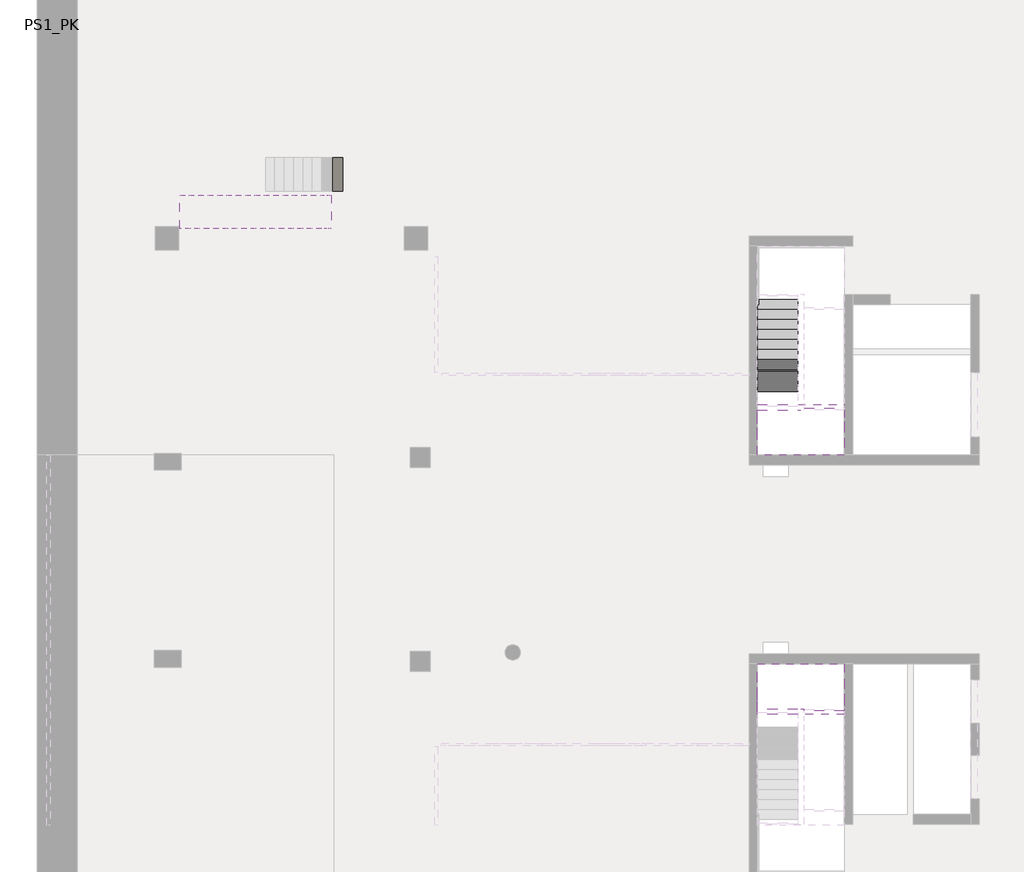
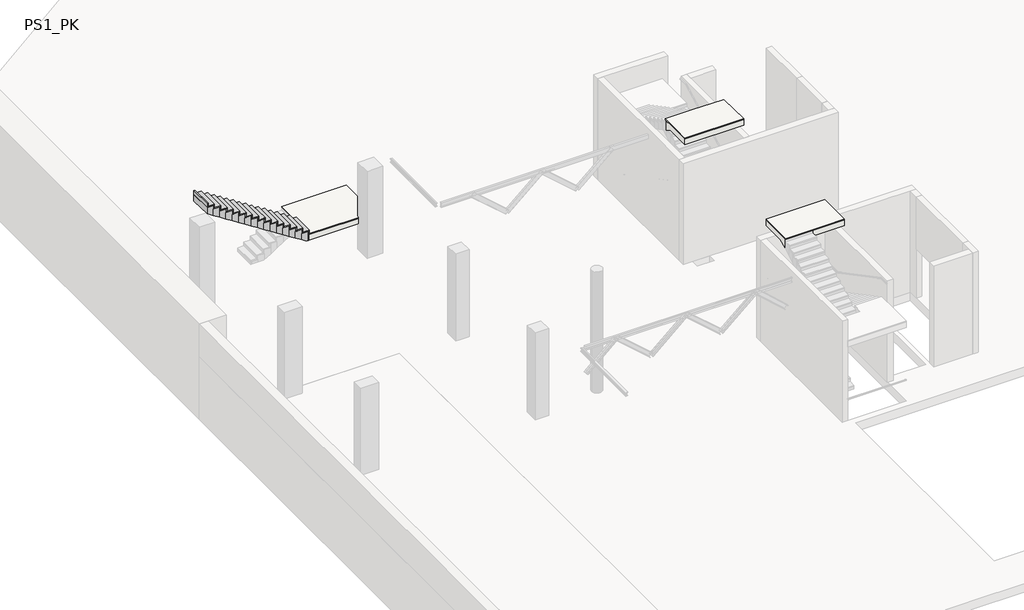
# One storey, part 4 of 5: 5 slabs, 2 stair flights.
"""IFC4 building model written with IfcOpenShell, lengths in millimetres."""

from ifc_helpers import new_model, si_unit, frame, origin, place, context, project, spatial, polyline, outline, extrude, faceted_brep, element, save

model = new_model("IFC4")

# Units and contexts
model_context = context("Model", 3, world=origin())
ifc_project = project(units=[si_unit("LENGTHUNIT", "METRE", prefix="MILLI")], contexts=[model_context])

# Site, building, storey
site = spatial("IfcSite", under=ifc_project)
building = spatial("IfcBuilding", under=site)
storey = spatial("IfcBuildingStorey", under=building, Name="PS1_PK", Elevation=1850.0)

# Slabs
placement = place(None, origin())
element("IfcSlab", 1, ObjectType="250mm_Thickness", at=placement, inside=storey, context=model_context, shape_type="SolidModel", body=[
    faceted_brep([(-26131.0997857, 15389.412773, 3333.6), (-26181.0997857, 15389.412773, 3333.6), (-26181.0997857, 15337.8960619, 3333.6), (-26181.0997857, 14389.412773, 3333.6), (-26131.0997857, 14389.412773, 3333.6), (-23265.3158631, 14389.412773, 3333.6), (-23265.3158631, 16500.1538347, 3333.6), (-25727.9490957, 16500.1538347, 3333.6), (-26081.0997857, 16500.1538347, 3333.6), (-26081.0997857, 15500.1538347, 3333.6), (-26131.0997857, 15500.1538347, 3333.6), (-26081.0997857, 16500.1538347, 3154.4), (-26081.0997857, 16500.1538347, 2857.5835584), (-26081.0997857, 15500.1538347, 2857.5835584), (-26081.0997857, 15500.1538347, 3083.6), (-26081.0997857, 15500.1538347, 3154.4), (-26181.0997857, 15337.8960619, 3083.6), (-26181.0997857, 14389.412773, 3083.6), (-26131.0997857, 14389.412773, 3083.6), (-23265.3158631, 14389.412773, 3083.6), (-23265.3158631, 16500.1538347, 3083.6), (-25727.9490957, 16500.1538347, 3083.6), (-25727.9490957, 15500.1538347, 3083.6), (-26181.0997857, 15389.412773, 3083.6), (-26131.0997857, 15389.412773, 3083.6), (-26131.0997857, 15500.1538347, 3083.6)], [[[0, 1, 2, 3, 4, 5, 6, 7, 8, 9, 10]], [[9, 8, 11, 12, 13, 14, 15]], [[3, 2, 16, 17]], [[5, 4, 18, 19]], [[6, 5, 19, 20]], [[6, 20, 21, 12, 11, 8, 7]], [[22, 21, 20, 19, 18, 17, 16, 23, 24, 25, 14]], [[21, 22, 13, 12]], [[22, 14, 13]], [[2, 1, 23, 16]], [[0, 10, 25, 24]], [[1, 0, 24, 23]], [[4, 3, 17, 18]], [[10, 9, 15, 14, 25]]]),
    extrude(outline(polyline([(-26131.0997857, 15389.412773), (-26131.0997857, 15500.1538347), (-26131.0997857, 16500.1538347), (-23265.3158631, 16500.1538347), (-23265.3158631, 14389.412773), (-26131.0997857, 14389.412773), (-26131.0997857, 15337.8960619), (-26131.0997857, 15389.412773)])), frame((0.0, 0.0, 3333.6), z_axis=(0.0, 0.0, 1.0), x_axis=(1.0, 0.0, 0.0)), (0.0, 0.0, 1.0), 50.0),
])
element("IfcSlab", 2, ObjectType="250mm_Thickness", at=placement, inside=storey, context=model_context, shape_type="SolidModel", body=[
    faceted_brep([(-12190.3216429, 8964.8960687, 3806.2857143), (-12190.3216429, 8914.8960687, 3806.2857143), (-13390.3216429, 8914.8960687, 3806.2857143), (-13390.3216429, 8552.7904531, 3806.2857143), (-13390.3216429, 7614.8960687, 3806.2857143), (-10790.2146087, 7614.8960687, 3806.2857143), (-10790.2146087, 8964.8960687, 3806.2857143), (-10790.2146087, 9014.8960687, 3806.2857143), (-11990.2146087, 9014.8960687, 3806.2857143), (-11990.2146087, 8964.8960687, 3806.2857143), (-12190.3216429, 8964.8960687, 3556.2857143), (-12190.3216429, 8914.8960687, 3556.2857143), (-12190.3216429, 8914.8960687, 3647.4285714), (-12190.3216429, 8914.8960687, 3364.5421692), (-13390.3216429, 8914.8960687, 3364.5421692), (-13390.3216429, 8914.8960687, 3647.4285714), (-13390.3216429, 8552.7904531, 3556.2857143), (-13390.3216429, 7614.8960687, 3556.2857143), (-10790.2146087, 7614.8960687, 3556.2857143), (-10790.2146087, 8964.8960687, 3556.2857143), (-10790.2146087, 9014.8960687, 3556.2857143), (-11990.2146087, 9014.8960687, 3556.2857143), (-11990.2146087, 8964.8960687, 3556.2857143), (-12190.3216429, 8552.7904531, 3556.2857143)], [[[0, 1, 2, 3, 4, 5, 6, 7, 8, 9]], [[1, 0, 10, 11, 12]], [[2, 1, 12, 11, 13, 14, 15]], [[2, 15, 14, 16, 17, 4, 3]], [[5, 4, 17, 18]], [[6, 5, 18, 19]], [[7, 6, 19, 20]], [[8, 7, 20, 21]], [[9, 8, 21, 22]], [[0, 9, 22, 10]], [[16, 23, 11, 10, 22, 21, 20, 19, 18, 17]], [[23, 16, 14, 13]], [[11, 23, 13]]]),
    extrude(outline(polyline([(-12190.3216429, 8964.8960687), (-11990.2146087, 8964.8960687), (-10790.2146087, 8964.8960687), (-10790.2146087, 7614.8960687), (-13390.3216429, 7614.8960687), (-13390.3216429, 8964.8960687), (-12190.3216429, 8964.8960687)])), frame((0.0, 0.0, 3806.2857143), z_axis=(0.0, 0.0, 1.0), x_axis=(1.0, 0.0, 0.0)), (0.0, 0.0, 1.0), 50.0),
])
element("IfcSlab", 3, ObjectType="250mm_Thickness", at=placement, inside=storey, context=model_context, shape_type="SolidModel", body=[
    faceted_brep([(-12190.3216429, 9114.8960687, 7460.0), (-12190.3216429, 9064.8960687, 7460.0), (-13390.3216429, 9064.8960687, 7460.0), (-13390.3216429, 8702.7904531, 7460.0), (-13390.3216429, 7614.8960687, 7460.0), (-10790.2146087, 7614.8960687, 7460.0), (-10790.2146087, 9114.8960687, 7460.0), (-10790.2146087, 7614.8960687, 7210.0), (-10790.2146087, 9114.8960687, 7210.0), (-13390.3216429, 9064.8960687, 7301.1428571), (-13390.3216429, 9064.8960687, 7018.2564549), (-13390.3216429, 8702.7904531, 7210.0), (-13390.3216429, 7614.8960687, 7210.0), (-12190.3216429, 8702.7904531, 7210.0), (-12190.3216429, 9064.8960687, 7210.0), (-12190.3216429, 9114.8960687, 7210.0), (-12190.3216429, 9064.8960687, 7301.1428571), (-12190.3216429, 9064.8960687, 7018.2564549)], [[[0, 1, 2, 3, 4, 5, 6]], [[6, 5, 7, 8]], [[2, 9, 10, 11, 12, 4, 3]], [[5, 4, 12, 7]], [[11, 13, 14, 15, 8, 7, 12]], [[1, 0, 15, 14, 16]], [[2, 1, 16, 14, 17, 10, 9]], [[0, 6, 8, 15]], [[13, 11, 10, 17]], [[14, 13, 17]]]),
    extrude(outline(polyline([(-12190.3216429, 9114.8960687), (-10790.2146087, 9114.8960687), (-10790.2146087, 7614.8960687), (-13390.3216429, 7614.8960687), (-13390.3216429, 9114.8960687), (-12190.3216429, 9114.8960687)])), frame((0.0, 0.0, 7460.0), z_axis=(0.0, 0.0, 1.0), x_axis=(1.0, 0.0, 0.0)), (0.0, 0.0, 1.0), 50.0),
])
element("IfcSlab", 4, ObjectType="250mm_Thickness", at=placement, inside=storey, context=model_context, shape_type="SolidModel", body=[
    faceted_brep([(-13390.3216429, 64.8960677, 3806.2857143), (-12190.3216429, 64.8960677, 3806.2857143), (-12190.3216429, 14.8960677, 3806.2857143), (-11990.2146087, 14.8960677, 3806.2857143), (-11990.2146087, -35.1039323, 3806.2857143), (-10790.2146087, -35.1039323, 3806.2857143), (-10790.2146087, 14.8960677, 3806.2857143), (-10790.2146087, 1364.8960678, 3806.2857143), (-13390.3216429, 1364.8960678, 3806.2857143), (-13390.3216429, 427.0016834, 3806.2857143), (-13390.3216429, 64.8960677, 3647.4285714), (-13390.3216429, 64.8960677, 3364.5421692), (-12190.3216429, 64.8960677, 3364.5421692), (-12190.3216429, 64.8960677, 3556.2857143), (-12190.3216429, 64.8960677, 3647.4285714), (-13390.3216429, 1364.8960678, 3556.2857143), (-13390.3216429, 427.0016834, 3556.2857143), (-10790.2146087, 1364.8960678, 3556.2857143), (-10790.2146087, 14.8960677, 3556.2857143), (-10790.2146087, -35.1039323, 3556.2857143), (-11990.2146087, -35.1039323, 3556.2857143), (-12190.3216429, 14.8960677, 3556.2857143), (-11990.2146087, 14.8960677, 3556.2857143), (-12190.3216429, 427.0016834, 3556.2857143)], [[[0, 1, 2, 3, 4, 5, 6, 7, 8, 9]], [[1, 0, 10, 11, 12, 13, 14]], [[11, 10, 0, 9, 8, 15, 16]], [[8, 7, 17, 15]], [[7, 6, 18, 17]], [[6, 5, 19, 18]], [[5, 4, 20, 19]], [[3, 2, 21, 22]], [[23, 16, 15, 17, 18, 19, 20, 22, 21, 13]], [[16, 23, 12, 11]], [[23, 13, 12]], [[2, 1, 14, 13, 21]], [[4, 3, 22, 20]]]),
    extrude(outline(polyline([(-13390.3216429, 14.8960677), (-13390.3216429, 1364.8960678), (-10790.2146087, 1364.8960678), (-10790.2146087, 14.8960677), (-11990.2146087, 14.8960677), (-12190.3216429, 14.8960677), (-13390.3216429, 14.8960677)])), frame((0.0, 0.0, 3806.2857143), z_axis=(0.0, 0.0, 1.0), x_axis=(1.0, 0.0, 0.0)), (0.0, 0.0, 1.0), 50.0),
])
element("IfcSlab", 5, ObjectType="250mm_Thickness", at=placement, inside=storey, context=model_context, shape_type="SolidModel", body=[
    faceted_brep([(-13390.3216429, -85.1039323, 7460.0), (-12190.3216429, -85.1039323, 7460.0), (-12190.3216429, -135.1039323, 7460.0), (-10790.2146087, -135.1039323, 7460.0), (-10790.2146087, 1364.8960678, 7460.0), (-13390.3216429, 1364.8960678, 7460.0), (-13390.3216429, 277.0016834, 7460.0), (-10790.2146087, -135.1039323, 7210.0), (-10790.2146087, 1364.8960678, 7210.0), (-13390.3216429, -85.1039323, 7018.2564549), (-13390.3216429, -85.1039323, 7301.1428571), (-13390.3216429, 1364.8960678, 7210.0), (-13390.3216429, 277.0016834, 7210.0), (-12190.3216429, 277.0016834, 7210.0), (-12190.3216429, -135.1039323, 7210.0), (-12190.3216429, -85.1039323, 7210.0), (-12190.3216429, -85.1039323, 7018.2564549), (-12190.3216429, -85.1039323, 7301.1428571)], [[[0, 1, 2, 3, 4, 5, 6]], [[4, 3, 7, 8]], [[9, 10, 0, 6, 5, 11, 12]], [[5, 4, 8, 11]], [[13, 12, 11, 8, 7, 14, 15]], [[1, 0, 10, 9, 16, 15, 17]], [[3, 2, 14, 7]], [[12, 13, 16, 9]], [[13, 15, 16]], [[2, 1, 17, 15, 14]]]),
    extrude(outline(polyline([(-13390.3216429, -135.1039323), (-13390.3216429, 1364.8960678), (-10790.2146087, 1364.8960678), (-10790.2146087, -135.1039323), (-12190.3216429, -135.1039323), (-13390.3216429, -135.1039323)])), frame((0.0, 0.0, 7460.0), z_axis=(0.0, 0.0, 1.0), x_axis=(1.0, 0.0, 0.0)), (0.0, 0.0, 1.0), 50.0),
])

# Stair flights
element("IfcStairFlight", 6, ObjectType="250mm Depth", at=placement, inside=storey, context=model_context, shape_type="SolidModel", body=[
    faceted_brep([(-26181.0997857, 14389.412773, 3512.8), (-26181.0997857, 15389.412773, 3512.8), (-26254.2504757, 15389.412773, 3512.8), (-26461.0997857, 15389.412773, 3512.8), (-26461.0997857, 14389.412773, 3512.8), (-26254.2504757, 14389.412773, 3512.8), (-26461.0997857, 14389.412773, 3215.9835584), (-26254.2504757, 14389.412773, 3083.6), (-26181.0997857, 14389.412773, 3083.6), (-26181.0997857, 14389.412773, 3333.6), (-26181.0997857, 15389.412773, 3083.6), (-26181.0997857, 15389.412773, 3333.6), (-26254.2504757, 15389.412773, 3083.6), (-26461.0997857, 15389.412773, 3215.9835584), (-26741.0997857, 14389.412773, 3692.0), (-26461.0997857, 14389.412773, 3692.0), (-26461.0997857, 15389.412773, 3692.0), (-26741.0997857, 15389.412773, 3692.0), (-26741.0997857, 14389.412773, 3395.1835584), (-26741.0997857, 15389.412773, 3395.1835584), (-27021.0997857, 14389.412773, 3871.2), (-26741.0997857, 14389.412773, 3871.2), (-26741.0997857, 15389.412773, 3871.2), (-27021.0997857, 15389.412773, 3871.2), (-27021.0997857, 14389.412773, 3574.3835584), (-27021.0997857, 15389.412773, 3574.3835584), (-27301.0997857, 14389.412773, 4050.4), (-27021.0997857, 14389.412773, 4050.4), (-27021.0997857, 15389.412773, 4050.4), (-27301.0997857, 15389.412773, 4050.4), (-27301.0997857, 14389.412773, 3753.5835584), (-27301.0997857, 15389.412773, 3753.5835584), (-27581.0997857, 14389.412773, 4229.6), (-27301.0997857, 14389.412773, 4229.6), (-27301.0997857, 15389.412773, 4229.6), (-27581.0997857, 15389.412773, 4229.6), (-27581.0997857, 14389.412773, 3932.7835584), (-27581.0997857, 15389.412773, 3932.7835584), (-27861.0997857, 14389.412773, 4408.8), (-27581.0997857, 14389.412773, 4408.8), (-27581.0997857, 15389.412773, 4408.8), (-27861.0997857, 15389.412773, 4408.8), (-27861.0997857, 14389.412773, 4111.9835584), (-27861.0997857, 15389.412773, 4111.9835584), (-28141.0997857, 14389.412773, 4588.0), (-27861.0997857, 14389.412773, 4588.0), (-27861.0997857, 15389.412773, 4588.0), (-28141.0997857, 15389.412773, 4588.0), (-28141.0997857, 14389.412773, 4291.1835584), (-28141.0997857, 15389.412773, 4291.1835584), (-28421.0997857, 14389.412773, 4767.2), (-28141.0997857, 14389.412773, 4767.2), (-28141.0997857, 15389.412773, 4767.2), (-28421.0997857, 15389.412773, 4767.2), (-28421.0997857, 14389.412773, 4470.3835584), (-28421.0997857, 15389.412773, 4470.3835584), (-28701.0997857, 14389.412773, 4946.4), (-28421.0997857, 14389.412773, 4946.4), (-28421.0997857, 15389.412773, 4946.4), (-28701.0997857, 15389.412773, 4946.4), (-28701.0997857, 14389.412773, 4649.5835584), (-28701.0997857, 15389.412773, 4649.5835584), (-28981.0997857, 14389.412773, 5125.6), (-28701.0997857, 14389.412773, 5125.6), (-28701.0997857, 15389.412773, 5125.6), (-28981.0997857, 15389.412773, 5125.6), (-28981.0997857, 14389.412773, 4828.7835584), (-28981.0997857, 15389.412773, 4828.7835584), (-29261.0997857, 14389.412773, 5304.8), (-28981.0997857, 14389.412773, 5304.8), (-28981.0997857, 15389.412773, 5304.8), (-29261.0997857, 15389.412773, 5304.8), (-29261.0997857, 14389.412773, 5007.9835584), (-29261.0997857, 15389.412773, 5007.9835584), (-29541.0997857, 14389.412773, 5484.0), (-29261.0997857, 14389.412773, 5484.0), (-29261.0997857, 15389.412773, 5484.0), (-29541.0997857, 15389.412773, 5484.0), (-29541.0997857, 14389.412773, 5187.1835584), (-29541.0997857, 15389.412773, 5187.1835584), (-29821.0997857, 14389.412773, 5663.2), (-29541.0997857, 14389.412773, 5663.2), (-29541.0997857, 15389.412773, 5663.2), (-29821.0997857, 15389.412773, 5663.2), (-29821.0997857, 14389.412773, 5366.3835584), (-29821.0997857, 15389.412773, 5366.3835584), (-30101.0997857, 14389.412773, 5842.4), (-29821.0997857, 14389.412773, 5842.4), (-29821.0997857, 15389.412773, 5842.4), (-30101.0997857, 15389.412773, 5842.4), (-30101.0997857, 14389.412773, 5545.5835584), (-30101.0997857, 15389.412773, 5545.5835584), (-30381.0997857, 14389.412773, 6021.6), (-30101.0997857, 14389.412773, 6021.6), (-30101.0997857, 15389.412773, 6021.6), (-30381.0997857, 15389.412773, 6021.6), (-30381.0997857, 14389.412773, 5724.7835584), (-30381.0997857, 15389.412773, 5724.7835584), (-30661.0997857, 14389.412773, 6200.8), (-30381.0997857, 14389.412773, 6200.8), (-30381.0997857, 15389.412773, 6200.8), (-30661.0997857, 15389.412773, 6200.8), (-30661.0997857, 14389.412773, 5903.9835584), (-30661.0997857, 15389.412773, 5903.9835584), (-26254.2504757, 15337.8960619, 3083.6)], [[[0, 1, 2, 3, 4, 5]], [[4, 6, 7, 8, 9, 0, 5]], [[1, 0, 9, 8, 10, 11]], [[1, 11, 10, 12, 13, 3, 2]], [[14, 15, 16, 17]], [[15, 14, 18, 6, 4]], [[16, 15, 4, 3]], [[17, 16, 3, 13, 19]], [[20, 21, 22, 23]], [[21, 20, 24, 18, 14]], [[22, 21, 14, 17]], [[23, 22, 17, 19, 25]], [[26, 27, 28, 29]], [[27, 26, 30, 24, 20]], [[28, 27, 20, 23]], [[29, 28, 23, 25, 31]], [[32, 33, 34, 35]], [[33, 32, 36, 30, 26]], [[34, 33, 26, 29]], [[35, 34, 29, 31, 37]], [[38, 39, 40, 41]], [[39, 38, 42, 36, 32]], [[40, 39, 32, 35]], [[41, 40, 35, 37, 43]], [[44, 45, 46, 47]], [[45, 44, 48, 42, 38]], [[46, 45, 38, 41]], [[47, 46, 41, 43, 49]], [[50, 51, 52, 53]], [[51, 50, 54, 48, 44]], [[52, 51, 44, 47]], [[53, 52, 47, 49, 55]], [[56, 57, 58, 59]], [[57, 56, 60, 54, 50]], [[58, 57, 50, 53]], [[59, 58, 53, 55, 61]], [[62, 63, 64, 65]], [[63, 62, 66, 60, 56]], [[64, 63, 56, 59]], [[65, 64, 59, 61, 67]], [[68, 69, 70, 71]], [[69, 68, 72, 66, 62]], [[70, 69, 62, 65]], [[71, 70, 65, 67, 73]], [[74, 75, 76, 77]], [[75, 74, 78, 72, 68]], [[76, 75, 68, 71]], [[77, 76, 71, 73, 79]], [[80, 81, 82, 83]], [[81, 80, 84, 78, 74]], [[82, 81, 74, 77]], [[83, 82, 77, 79, 85]], [[86, 87, 88, 89]], [[87, 86, 90, 84, 80]], [[88, 87, 80, 83]], [[89, 88, 83, 85, 91]], [[92, 93, 94, 95]], [[93, 92, 96, 90, 86]], [[94, 93, 86, 89]], [[95, 94, 89, 91, 97]], [[98, 99, 100, 101]], [[99, 98, 102, 96, 92]], [[100, 99, 92, 95]], [[101, 100, 95, 97, 103]], [[98, 101, 103, 102]], [[12, 104, 7, 6, 18, 24, 30, 36, 42, 48, 54, 60, 66, 72, 78, 84, 90, 96, 102, 103, 97, 91, 85, 79, 73, 67, 61, 55, 49, 43, 37, 31, 25, 19, 13]], [[104, 12, 10, 8, 7]]]),
    extrude(outline(polyline([(-26181.0997857, 15389.412773), (-26131.0997857, 15389.412773), (-26131.0997857, 14389.412773), (-26181.0997857, 14389.412773), (-26181.0997857, 15389.412773)])), frame((0.0, 0.0, 3333.6), z_axis=(0.0, 0.0, 1.0), x_axis=(1.0, 0.0, 0.0)), (0.0, 0.0, 1.0), 179.2),
    extrude(outline(polyline([(-26411.0997857, 14389.412773), (-26411.0997857, 15389.412773), (-26131.0997857, 15389.412773), (-26131.0997857, 14389.412773), (-26411.0997857, 14389.412773)])), frame((0.0, 0.0, 3512.8), z_axis=(0.0, 0.0, 1.0), x_axis=(1.0, 0.0, 0.0)), (0.0, 0.0, 1.0), 50.0),
    extrude(outline(polyline([(-26461.0997857, 15389.412773), (-26411.0997857, 15389.412773), (-26411.0997857, 14389.412773), (-26461.0997857, 14389.412773), (-26461.0997857, 15389.412773)])), frame((0.0, 0.0, 3512.8), z_axis=(0.0, 0.0, 1.0), x_axis=(1.0, 0.0, 0.0)), (0.0, 0.0, 1.0), 179.2),
    extrude(outline(polyline([(-26691.0997857, 14389.412773), (-26691.0997857, 15389.412773), (-26411.0997857, 15389.412773), (-26411.0997857, 14389.412773), (-26691.0997857, 14389.412773)])), frame((0.0, 0.0, 3692.0), z_axis=(0.0, 0.0, 1.0), x_axis=(1.0, 0.0, 0.0)), (0.0, 0.0, 1.0), 50.0),
    extrude(outline(polyline([(-26741.0997857, 15389.412773), (-26691.0997857, 15389.412773), (-26691.0997857, 14389.412773), (-26741.0997857, 14389.412773), (-26741.0997857, 15389.412773)])), frame((0.0, 0.0, 3692.0), z_axis=(0.0, 0.0, 1.0), x_axis=(1.0, 0.0, 0.0)), (0.0, 0.0, 1.0), 179.2),
    extrude(outline(polyline([(-26971.0997857, 14389.412773), (-26971.0997857, 15389.412773), (-26691.0997857, 15389.412773), (-26691.0997857, 14389.412773), (-26971.0997857, 14389.412773)])), frame((0.0, 0.0, 3871.2), z_axis=(0.0, 0.0, 1.0), x_axis=(1.0, 0.0, 0.0)), (0.0, 0.0, 1.0), 50.0),
    extrude(outline(polyline([(-27021.0997857, 15389.412773), (-26971.0997857, 15389.412773), (-26971.0997857, 14389.412773), (-27021.0997857, 14389.412773), (-27021.0997857, 15389.412773)])), frame((0.0, 0.0, 3871.2), z_axis=(0.0, 0.0, 1.0), x_axis=(1.0, 0.0, 0.0)), (0.0, 0.0, 1.0), 179.2),
    extrude(outline(polyline([(-27251.0997857, 14389.412773), (-27251.0997857, 15389.412773), (-26971.0997857, 15389.412773), (-26971.0997857, 14389.412773), (-27251.0997857, 14389.412773)])), frame((0.0, 0.0, 4050.4), z_axis=(0.0, 0.0, 1.0), x_axis=(1.0, 0.0, 0.0)), (0.0, 0.0, 1.0), 50.0),
    extrude(outline(polyline([(-27301.0997857, 15389.412773), (-27251.0997857, 15389.412773), (-27251.0997857, 14389.412773), (-27301.0997857, 14389.412773), (-27301.0997857, 15389.412773)])), frame((0.0, 0.0, 4050.4), z_axis=(0.0, 0.0, 1.0), x_axis=(1.0, 0.0, 0.0)), (0.0, 0.0, 1.0), 179.2),
    extrude(outline(polyline([(-27531.0997857, 14389.412773), (-27531.0997857, 15389.412773), (-27251.0997857, 15389.412773), (-27251.0997857, 14389.412773), (-27531.0997857, 14389.412773)])), frame((0.0, 0.0, 4229.6), z_axis=(0.0, 0.0, 1.0), x_axis=(1.0, 0.0, 0.0)), (0.0, 0.0, 1.0), 50.0),
    extrude(outline(polyline([(-27581.0997857, 15389.412773), (-27531.0997857, 15389.412773), (-27531.0997857, 14389.412773), (-27581.0997857, 14389.412773), (-27581.0997857, 15389.412773)])), frame((0.0, 0.0, 4229.6), z_axis=(0.0, 0.0, 1.0), x_axis=(1.0, 0.0, 0.0)), (0.0, 0.0, 1.0), 179.2),
    extrude(outline(polyline([(-27811.0997857, 14389.412773), (-27811.0997857, 15389.412773), (-27531.0997857, 15389.412773), (-27531.0997857, 14389.412773), (-27811.0997857, 14389.412773)])), frame((0.0, 0.0, 4408.8), z_axis=(0.0, 0.0, 1.0), x_axis=(1.0, 0.0, 0.0)), (0.0, 0.0, 1.0), 50.0),
    extrude(outline(polyline([(-27861.0997857, 15389.412773), (-27811.0997857, 15389.412773), (-27811.0997857, 14389.412773), (-27861.0997857, 14389.412773), (-27861.0997857, 15389.412773)])), frame((0.0, 0.0, 4408.8), z_axis=(0.0, 0.0, 1.0), x_axis=(1.0, 0.0, 0.0)), (0.0, 0.0, 1.0), 179.2),
    extrude(outline(polyline([(-28091.0997857, 14389.412773), (-28091.0997857, 15389.412773), (-27811.0997857, 15389.412773), (-27811.0997857, 14389.412773), (-28091.0997857, 14389.412773)])), frame((0.0, 0.0, 4588.0), z_axis=(0.0, 0.0, 1.0), x_axis=(1.0, 0.0, 0.0)), (0.0, 0.0, 1.0), 50.0),
    extrude(outline(polyline([(-28141.0997857, 15389.412773), (-28091.0997857, 15389.412773), (-28091.0997857, 14389.412773), (-28141.0997857, 14389.412773), (-28141.0997857, 15389.412773)])), frame((0.0, 0.0, 4588.0), z_axis=(0.0, 0.0, 1.0), x_axis=(1.0, 0.0, 0.0)), (0.0, 0.0, 1.0), 179.2),
    extrude(outline(polyline([(-28371.0997857, 14389.412773), (-28371.0997857, 15389.412773), (-28091.0997857, 15389.412773), (-28091.0997857, 14389.412773), (-28371.0997857, 14389.412773)])), frame((0.0, 0.0, 4767.2), z_axis=(0.0, 0.0, 1.0), x_axis=(1.0, 0.0, 0.0)), (0.0, 0.0, 1.0), 50.0),
    extrude(outline(polyline([(-28421.0997857, 15389.412773), (-28371.0997857, 15389.412773), (-28371.0997857, 14389.412773), (-28421.0997857, 14389.412773), (-28421.0997857, 15389.412773)])), frame((0.0, 0.0, 4767.2), z_axis=(0.0, 0.0, 1.0), x_axis=(1.0, 0.0, 0.0)), (0.0, 0.0, 1.0), 179.2),
    extrude(outline(polyline([(-28651.0997857, 14389.412773), (-28651.0997857, 15389.412773), (-28371.0997857, 15389.412773), (-28371.0997857, 14389.412773), (-28651.0997857, 14389.412773)])), frame((0.0, 0.0, 4946.4), z_axis=(0.0, 0.0, 1.0), x_axis=(1.0, 0.0, 0.0)), (0.0, 0.0, 1.0), 50.0),
    extrude(outline(polyline([(-28701.0997857, 15389.412773), (-28651.0997857, 15389.412773), (-28651.0997857, 14389.412773), (-28701.0997857, 14389.412773), (-28701.0997857, 15389.412773)])), frame((0.0, 0.0, 4946.4), z_axis=(0.0, 0.0, 1.0), x_axis=(1.0, 0.0, 0.0)), (0.0, 0.0, 1.0), 179.2),
    extrude(outline(polyline([(-28931.0997857, 14389.412773), (-28931.0997857, 15389.412773), (-28651.0997857, 15389.412773), (-28651.0997857, 14389.412773), (-28931.0997857, 14389.412773)])), frame((0.0, 0.0, 5125.6), z_axis=(0.0, 0.0, 1.0), x_axis=(1.0, 0.0, 0.0)), (0.0, 0.0, 1.0), 50.0),
    extrude(outline(polyline([(-28981.0997857, 15389.412773), (-28931.0997857, 15389.412773), (-28931.0997857, 14389.412773), (-28981.0997857, 14389.412773), (-28981.0997857, 15389.412773)])), frame((0.0, 0.0, 5125.6), z_axis=(0.0, 0.0, 1.0), x_axis=(1.0, 0.0, 0.0)), (0.0, 0.0, 1.0), 179.2),
    extrude(outline(polyline([(-29211.0997857, 14389.412773), (-29211.0997857, 15389.412773), (-28931.0997857, 15389.412773), (-28931.0997857, 14389.412773), (-29211.0997857, 14389.412773)])), frame((0.0, 0.0, 5304.8), z_axis=(0.0, 0.0, 1.0), x_axis=(1.0, 0.0, 0.0)), (0.0, 0.0, 1.0), 50.0),
    extrude(outline(polyline([(-29261.0997857, 15389.412773), (-29211.0997857, 15389.412773), (-29211.0997857, 14389.412773), (-29261.0997857, 14389.412773), (-29261.0997857, 15389.412773)])), frame((0.0, 0.0, 5304.8), z_axis=(0.0, 0.0, 1.0), x_axis=(1.0, 0.0, 0.0)), (0.0, 0.0, 1.0), 179.2),
    extrude(outline(polyline([(-29491.0997857, 14389.412773), (-29491.0997857, 15389.412773), (-29211.0997857, 15389.412773), (-29211.0997857, 14389.412773), (-29491.0997857, 14389.412773)])), frame((0.0, 0.0, 5484.0), z_axis=(0.0, 0.0, 1.0), x_axis=(1.0, 0.0, 0.0)), (0.0, 0.0, 1.0), 50.0),
    extrude(outline(polyline([(-29541.0997857, 15389.412773), (-29491.0997857, 15389.412773), (-29491.0997857, 14389.412773), (-29541.0997857, 14389.412773), (-29541.0997857, 15389.412773)])), frame((0.0, 0.0, 5484.0), z_axis=(0.0, 0.0, 1.0), x_axis=(1.0, 0.0, 0.0)), (0.0, 0.0, 1.0), 179.2),
    extrude(outline(polyline([(-29771.0997857, 14389.412773), (-29771.0997857, 15389.412773), (-29491.0997857, 15389.412773), (-29491.0997857, 14389.412773), (-29771.0997857, 14389.412773)])), frame((0.0, 0.0, 5663.2), z_axis=(0.0, 0.0, 1.0), x_axis=(1.0, 0.0, 0.0)), (0.0, 0.0, 1.0), 50.0),
    extrude(outline(polyline([(-29821.0997857, 15389.412773), (-29771.0997857, 15389.412773), (-29771.0997857, 14389.412773), (-29821.0997857, 14389.412773), (-29821.0997857, 15389.412773)])), frame((0.0, 0.0, 5663.2), z_axis=(0.0, 0.0, 1.0), x_axis=(1.0, 0.0, 0.0)), (0.0, 0.0, 1.0), 179.2),
    extrude(outline(polyline([(-30051.0997857, 14389.412773), (-30051.0997857, 15389.412773), (-29771.0997857, 15389.412773), (-29771.0997857, 14389.412773), (-30051.0997857, 14389.412773)])), frame((0.0, 0.0, 5842.4), z_axis=(0.0, 0.0, 1.0), x_axis=(1.0, 0.0, 0.0)), (0.0, 0.0, 1.0), 50.0),
    extrude(outline(polyline([(-30101.0997857, 15389.412773), (-30051.0997857, 15389.412773), (-30051.0997857, 14389.412773), (-30101.0997857, 14389.412773), (-30101.0997857, 15389.412773)])), frame((0.0, 0.0, 5842.4), z_axis=(0.0, 0.0, 1.0), x_axis=(1.0, 0.0, 0.0)), (0.0, 0.0, 1.0), 179.2),
    extrude(outline(polyline([(-30331.0997857, 14389.412773), (-30331.0997857, 15389.412773), (-30051.0997857, 15389.412773), (-30051.0997857, 14389.412773), (-30331.0997857, 14389.412773)])), frame((0.0, 0.0, 6021.6), z_axis=(0.0, 0.0, 1.0), x_axis=(1.0, 0.0, 0.0)), (0.0, 0.0, 1.0), 50.0),
    extrude(outline(polyline([(-30381.0997857, 15389.412773), (-30331.0997857, 15389.412773), (-30331.0997857, 14389.412773), (-30381.0997857, 14389.412773), (-30381.0997857, 15389.412773)])), frame((0.0, 0.0, 6021.6), z_axis=(0.0, 0.0, 1.0), x_axis=(1.0, 0.0, 0.0)), (0.0, 0.0, 1.0), 179.2),
    extrude(outline(polyline([(-30661.0997857, 15389.412773), (-30611.0997857, 15389.412773), (-30611.0997857, 14389.412773), (-30661.0997857, 14389.412773), (-30661.0997857, 15389.412773)])), frame((0.0, 0.0, 6200.8), z_axis=(0.0, 0.0, 1.0), x_axis=(1.0, 0.0, 0.0)), (0.0, 0.0, 1.0), 179.2),
    extrude(outline(polyline([(-30611.0997857, 14389.412773), (-30611.0997857, 15389.412773), (-30331.0997857, 15389.412773), (-30331.0997857, 14389.412773), (-30611.0997857, 14389.412773)])), frame((0.0, 0.0, 6200.8), z_axis=(0.0, 0.0, 1.0), x_axis=(1.0, 0.0, 0.0)), (0.0, 0.0, 1.0), 50.0),
])
element("IfcStairFlight", 7, ObjectType="250mm Depth", at=placement, inside=storey, context=model_context, shape_type="SolidModel", body=[
    faceted_brep([(-12190.3216429, 11914.8960687, 2058.8571429), (-12190.3216429, 12214.8960687, 2058.8571429), (-13390.3216429, 12214.8960687, 2058.8571429), (-13390.3216429, 11914.8960687, 2058.8571429), (-12190.3216429, 11914.8960687, 1950.0), (-12190.3216429, 12214.8960687, 1950.0), (-13390.3216429, 12214.8960687, 1950.0), (-13390.3216429, 11914.8960687, 1950.0), (-12190.3216429, 11614.8960687, 2217.7142857), (-12190.3216429, 11914.8960687, 2217.7142857), (-13390.3216429, 11914.8960687, 2217.7142857), (-13390.3216429, 11614.8960687, 2217.7142857), (-12190.3216429, 11614.8960687, 1950.0), (-13390.3216429, 11614.8960687, 1950.0), (-12190.3216429, 11314.8960687, 2376.5714286), (-12190.3216429, 11614.8960687, 2376.5714286), (-13390.3216429, 11614.8960687, 2376.5714286), (-13390.3216429, 11314.8960687, 2376.5714286), (-12190.3216429, 11314.8960687, 2093.6850264), (-12190.3216429, 11586.2436905, 1950.0), (-13390.3216429, 11586.2436905, 1950.0), (-13390.3216429, 11314.8960687, 2093.6850264), (-12190.3216429, 11014.8960687, 2535.4285714), (-12190.3216429, 11314.8960687, 2535.4285714), (-13390.3216429, 11314.8960687, 2535.4285714), (-13390.3216429, 11014.8960687, 2535.4285714), (-12190.3216429, 11014.8960687, 2252.5421692), (-13390.3216429, 11014.8960687, 2252.5421692), (-12190.3216429, 10714.8960687, 2694.2857143), (-12190.3216429, 11014.8960687, 2694.2857143), (-13390.3216429, 11014.8960687, 2694.2857143), (-13390.3216429, 10714.8960687, 2694.2857143), (-12190.3216429, 10714.8960687, 2411.3993121), (-13390.3216429, 10714.8960687, 2411.3993121), (-12190.3216429, 10414.8960687, 2853.1428571), (-12190.3216429, 10714.8960687, 2853.1428571), (-13390.3216429, 10714.8960687, 2853.1428571), (-13390.3216429, 10414.8960687, 2853.1428571), (-12190.3216429, 10414.8960687, 2570.2564549), (-13390.3216429, 10414.8960687, 2570.2564549), (-12190.3216429, 10114.8960687, 3012.0), (-12190.3216429, 10414.8960687, 3012.0), (-13390.3216429, 10414.8960687, 3012.0), (-13390.3216429, 10114.8960687, 3012.0), (-12190.3216429, 10114.8960687, 2729.1135978), (-13390.3216429, 10114.8960687, 2729.1135978), (-12190.3216429, 9814.8960687, 3170.8571429), (-12190.3216429, 10114.8960687, 3170.8571429), (-13390.3216429, 10114.8960687, 3170.8571429), (-13390.3216429, 9814.8960687, 3170.8571429), (-12190.3216429, 9814.8960687, 2887.9707407), (-13390.3216429, 9814.8960687, 2887.9707407), (-12190.3216429, 9514.8960687, 3329.7142857), (-12190.3216429, 9814.8960687, 3329.7142857), (-13390.3216429, 9814.8960687, 3329.7142857), (-13390.3216429, 9514.8960687, 3329.7142857), (-12190.3216429, 9514.8960687, 3046.8278835), (-13390.3216429, 9514.8960687, 3046.8278835), (-12190.3216429, 9214.8960687, 3488.5714286), (-12190.3216429, 9514.8960687, 3488.5714286), (-13390.3216429, 9514.8960687, 3488.5714286), (-13390.3216429, 9214.8960687, 3488.5714286), (-12190.3216429, 9214.8960687, 3205.6850264), (-13390.3216429, 9214.8960687, 3205.6850264), (-12190.3216429, 9214.8960687, 3647.4285714), (-13390.3216429, 9214.8960687, 3647.4285714), (-13390.3216429, 8964.8960687, 3647.4285714), (-13390.3216429, 8914.8960687, 3647.4285714), (-12190.3216429, 8914.8960687, 3647.4285714), (-12190.3216429, 8964.8960687, 3647.4285714), (-12190.3216429, 8914.8960687, 3556.2857143), (-12190.3216429, 8914.8960687, 3364.5421692), (-13390.3216429, 8964.8960687, 3338.0659787), (-13390.3216429, 8914.8960687, 3364.5421692)], [[[0, 1, 2, 3]], [[1, 0, 4, 5]], [[2, 1, 5, 6]], [[3, 2, 6, 7]], [[8, 9, 10, 11]], [[4, 0, 9, 8, 12]], [[0, 3, 10, 9]], [[3, 7, 13, 11, 10]], [[14, 15, 16, 17]], [[12, 8, 15, 14, 18, 19]], [[8, 11, 16, 15]], [[11, 13, 20, 21, 17, 16]], [[22, 23, 24, 25]], [[23, 22, 26, 18, 14]], [[14, 17, 24, 23]], [[25, 24, 17, 21, 27]], [[28, 29, 30, 31]], [[29, 28, 32, 26, 22]], [[22, 25, 30, 29]], [[31, 30, 25, 27, 33]], [[34, 35, 36, 37]], [[35, 34, 38, 32, 28]], [[28, 31, 36, 35]], [[37, 36, 31, 33, 39]], [[40, 41, 42, 43]], [[41, 40, 44, 38, 34]], [[34, 37, 42, 41]], [[43, 42, 37, 39, 45]], [[46, 47, 48, 49]], [[47, 46, 50, 44, 40]], [[40, 43, 48, 47]], [[49, 48, 43, 45, 51]], [[52, 53, 54, 55]], [[53, 52, 56, 50, 46]], [[46, 49, 54, 53]], [[55, 54, 49, 51, 57]], [[58, 59, 60, 61]], [[59, 58, 62, 56, 52]], [[52, 55, 60, 59]], [[61, 60, 55, 57, 63]], [[64, 65, 66, 67, 68, 69]], [[58, 64, 69, 68, 70, 71, 62]], [[58, 61, 65, 64]], [[65, 61, 63, 72, 73, 67, 66]], [[68, 67, 73, 71, 70]], [[5, 4, 12, 19, 20, 13, 7, 6]], [[20, 19, 18, 26, 32, 38, 44, 50, 56, 62, 71, 73, 72, 63, 57, 51, 45, 39, 33, 27, 21]]]),
    extrude(outline(polyline([(-13390.3216429, 12214.8960687), (-13390.3216429, 12264.8960687), (-12190.3216429, 12264.8960687), (-12190.3216429, 12214.8960687), (-13390.3216429, 12214.8960687)])), frame((0.0, 0.0, 1950.0), z_axis=(0.0, 0.0, 1.0), x_axis=(1.0, 0.0, 0.0)), (0.0, 0.0, 1.0), 108.8571429),
    extrude(outline(polyline([(-12190.3216429, 11964.8960687), (-13390.3216429, 11964.8960687), (-13390.3216429, 12264.8960687), (-12190.3216429, 12264.8960687), (-12190.3216429, 11964.8960687)])), frame((0.0, 0.0, 2058.8571429), z_axis=(0.0, 0.0, 1.0), x_axis=(1.0, 0.0, 0.0)), (0.0, 0.0, 1.0), 50.0),
    extrude(outline(polyline([(-13390.3216429, 11914.8960687), (-13390.3216429, 11964.8960687), (-12190.3216429, 11964.8960687), (-12190.3216429, 11914.8960687), (-13390.3216429, 11914.8960687)])), frame((0.0, 0.0, 2058.8571429), z_axis=(0.0, 0.0, 1.0), x_axis=(1.0, 0.0, 0.0)), (0.0, 0.0, 1.0), 158.8571429),
    extrude(outline(polyline([(-12190.3216429, 11664.8960687), (-13390.3216429, 11664.8960687), (-13390.3216429, 11964.8960687), (-12190.3216429, 11964.8960687), (-12190.3216429, 11664.8960687)])), frame((0.0, 0.0, 2217.7142857), z_axis=(0.0, 0.0, 1.0), x_axis=(1.0, 0.0, 0.0)), (0.0, 0.0, 1.0), 50.0),
    extrude(outline(polyline([(-13390.3216429, 11614.8960687), (-13390.3216429, 11664.8960687), (-12190.3216429, 11664.8960687), (-12190.3216429, 11614.8960687), (-13390.3216429, 11614.8960687)])), frame((0.0, 0.0, 2217.7142857), z_axis=(0.0, 0.0, 1.0), x_axis=(1.0, 0.0, 0.0)), (0.0, 0.0, 1.0), 158.8571429),
    extrude(outline(polyline([(-12190.3216429, 11364.8960687), (-13390.3216429, 11364.8960687), (-13390.3216429, 11664.8960687), (-12190.3216429, 11664.8960687), (-12190.3216429, 11364.8960687)])), frame((0.0, 0.0, 2376.5714286), z_axis=(0.0, 0.0, 1.0), x_axis=(1.0, 0.0, 0.0)), (0.0, 0.0, 1.0), 50.0),
    extrude(outline(polyline([(-13390.3216429, 11314.8960687), (-13390.3216429, 11364.8960687), (-12190.3216429, 11364.8960687), (-12190.3216429, 11314.8960687), (-13390.3216429, 11314.8960687)])), frame((0.0, 0.0, 2376.5714286), z_axis=(0.0, 0.0, 1.0), x_axis=(1.0, 0.0, 0.0)), (0.0, 0.0, 1.0), 158.8571429),
    extrude(outline(polyline([(-12190.3216429, 11064.8960687), (-13390.3216429, 11064.8960687), (-13390.3216429, 11364.8960687), (-12190.3216429, 11364.8960687), (-12190.3216429, 11064.8960687)])), frame((0.0, 0.0, 2535.4285714), z_axis=(0.0, 0.0, 1.0), x_axis=(1.0, 0.0, 0.0)), (0.0, 0.0, 1.0), 50.0),
    extrude(outline(polyline([(-13390.3216429, 11014.8960687), (-13390.3216429, 11064.8960687), (-12190.3216429, 11064.8960687), (-12190.3216429, 11014.8960687), (-13390.3216429, 11014.8960687)])), frame((0.0, 0.0, 2535.4285714), z_axis=(0.0, 0.0, 1.0), x_axis=(1.0, 0.0, 0.0)), (0.0, 0.0, 1.0), 158.8571429),
    extrude(outline(polyline([(-12190.3216429, 10764.8960687), (-13390.3216429, 10764.8960687), (-13390.3216429, 11064.8960687), (-12190.3216429, 11064.8960687), (-12190.3216429, 10764.8960687)])), frame((0.0, 0.0, 2694.2857143), z_axis=(0.0, 0.0, 1.0), x_axis=(1.0, 0.0, 0.0)), (0.0, 0.0, 1.0), 50.0),
    extrude(outline(polyline([(-13390.3216429, 10714.8960687), (-13390.3216429, 10764.8960687), (-12190.3216429, 10764.8960687), (-12190.3216429, 10714.8960687), (-13390.3216429, 10714.8960687)])), frame((0.0, 0.0, 2694.2857143), z_axis=(0.0, 0.0, 1.0), x_axis=(1.0, 0.0, 0.0)), (0.0, 0.0, 1.0), 158.8571429),
    extrude(outline(polyline([(-12190.3216429, 10464.8960687), (-13390.3216429, 10464.8960687), (-13390.3216429, 10764.8960687), (-12190.3216429, 10764.8960687), (-12190.3216429, 10464.8960687)])), frame((0.0, 0.0, 2853.1428571), z_axis=(0.0, 0.0, 1.0), x_axis=(1.0, 0.0, 0.0)), (0.0, 0.0, 1.0), 50.0),
    extrude(outline(polyline([(-13390.3216429, 10414.8960687), (-13390.3216429, 10464.8960687), (-12190.3216429, 10464.8960687), (-12190.3216429, 10414.8960687), (-13390.3216429, 10414.8960687)])), frame((0.0, 0.0, 2853.1428571), z_axis=(0.0, 0.0, 1.0), x_axis=(1.0, 0.0, 0.0)), (0.0, 0.0, 1.0), 158.8571429),
    extrude(outline(polyline([(-12190.3216429, 10164.8960687), (-13390.3216429, 10164.8960687), (-13390.3216429, 10464.8960687), (-12190.3216429, 10464.8960687), (-12190.3216429, 10164.8960687)])), frame((0.0, 0.0, 3012.0), z_axis=(0.0, 0.0, 1.0), x_axis=(1.0, 0.0, 0.0)), (0.0, 0.0, 1.0), 50.0),
    extrude(outline(polyline([(-13390.3216429, 10114.8960687), (-13390.3216429, 10164.8960687), (-12190.3216429, 10164.8960687), (-12190.3216429, 10114.8960687), (-13390.3216429, 10114.8960687)])), frame((0.0, 0.0, 3012.0), z_axis=(0.0, 0.0, 1.0), x_axis=(1.0, 0.0, 0.0)), (0.0, 0.0, 1.0), 158.8571429),
    extrude(outline(polyline([(-12190.3216429, 9864.8960687), (-13390.3216429, 9864.8960687), (-13390.3216429, 10164.8960687), (-12190.3216429, 10164.8960687), (-12190.3216429, 9864.8960687)])), frame((0.0, 0.0, 3170.8571429), z_axis=(0.0, 0.0, 1.0), x_axis=(1.0, 0.0, 0.0)), (0.0, 0.0, 1.0), 50.0),
    extrude(outline(polyline([(-13390.3216429, 9814.8960687), (-13390.3216429, 9864.8960687), (-12190.3216429, 9864.8960687), (-12190.3216429, 9814.8960687), (-13390.3216429, 9814.8960687)])), frame((0.0, 0.0, 3170.8571429), z_axis=(0.0, 0.0, 1.0), x_axis=(1.0, 0.0, 0.0)), (0.0, 0.0, 1.0), 158.8571429),
    extrude(outline(polyline([(-12190.3216429, 9564.8960687), (-13390.3216429, 9564.8960687), (-13390.3216429, 9864.8960687), (-12190.3216429, 9864.8960687), (-12190.3216429, 9564.8960687)])), frame((0.0, 0.0, 3329.7142857), z_axis=(0.0, 0.0, 1.0), x_axis=(1.0, 0.0, 0.0)), (0.0, 0.0, 1.0), 50.0),
    extrude(outline(polyline([(-13390.3216429, 9514.8960687), (-13390.3216429, 9564.8960687), (-12190.3216429, 9564.8960687), (-12190.3216429, 9514.8960687), (-13390.3216429, 9514.8960687)])), frame((0.0, 0.0, 3329.7142857), z_axis=(0.0, 0.0, 1.0), x_axis=(1.0, 0.0, 0.0)), (0.0, 0.0, 1.0), 158.8571429),
    extrude(outline(polyline([(-12190.3216429, 9264.8960687), (-13390.3216429, 9264.8960687), (-13390.3216429, 9564.8960687), (-12190.3216429, 9564.8960687), (-12190.3216429, 9264.8960687)])), frame((0.0, 0.0, 3488.5714286), z_axis=(0.0, 0.0, 1.0), x_axis=(1.0, 0.0, 0.0)), (0.0, 0.0, 1.0), 50.0),
    extrude(outline(polyline([(-13390.3216429, 9214.8960687), (-13390.3216429, 9264.8960687), (-12190.3216429, 9264.8960687), (-12190.3216429, 9214.8960687), (-13390.3216429, 9214.8960687)])), frame((0.0, 0.0, 3488.5714286), z_axis=(0.0, 0.0, 1.0), x_axis=(1.0, 0.0, 0.0)), (0.0, 0.0, 1.0), 158.8571429),
    extrude(outline(polyline([(-13390.3216429, 8914.8960687), (-13390.3216429, 8964.8960687), (-12190.3216429, 8964.8960687), (-12190.3216429, 8914.8960687), (-13390.3216429, 8914.8960687)])), frame((0.0, 0.0, 3647.4285714), z_axis=(0.0, 0.0, 1.0), x_axis=(1.0, 0.0, 0.0)), (0.0, 0.0, 1.0), 158.8571429),
    extrude(outline(polyline([(-12190.3216429, 8964.8960687), (-13390.3216429, 8964.8960687), (-13390.3216429, 9264.8960687), (-12190.3216429, 9264.8960687), (-12190.3216429, 8964.8960687)])), frame((0.0, 0.0, 3647.4285714), z_axis=(0.0, 0.0, 1.0), x_axis=(1.0, 0.0, 0.0)), (0.0, 0.0, 1.0), 50.0),
])

save(model, "model.ifc")
